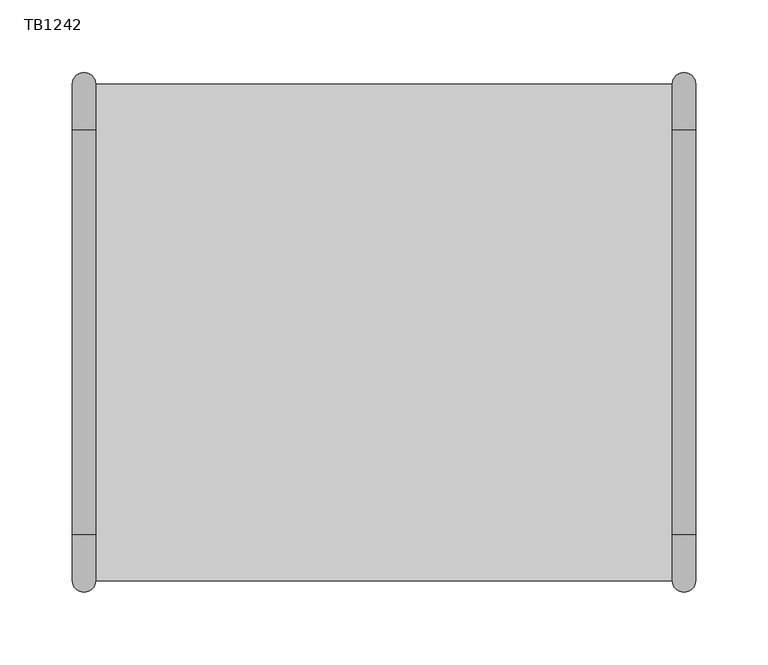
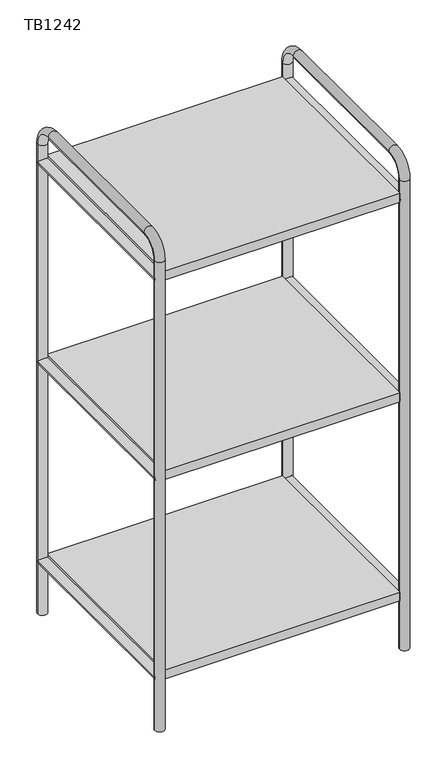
"""IFC4 building model written with IfcOpenShell, lengths in millimetres: furniture geometry, Tubbe Bookcase_2x1 : TB1242."""

from ifc_helpers import new_model, si_unit, point, frame, frame_2d, origin, place, context, project, spatial, polyline, circle_curve, ellipse_curve, trimmed, segment, composite_curve, outline, extrude, source, transform, mapped, element, save
from ifc_brep_helpers import plane_surface, cylinder_surface, revolved_surface, advanced_brep


def tb1242_8765e396(model_context):
    return source(origin(), model_context, "Body", "SolidModel", [
        extrude(outline(polyline([(199.0, 171.5), (199.0, -171.5), (-199.0, -171.5), (-199.0, 171.5), (199.0, 171.5)])), frame((0.0, 0.0, 798.0), z_axis=(0.0, 0.0, 1.0), x_axis=(1.0, 0.0, 0.0)), (0.0, 0.0, 1.0), 16.0),
        extrude(outline(polyline([(199.0, 171.5), (199.0, -171.5), (-199.0, -171.5), (-199.0, 171.5), (199.0, 171.5)])), frame((0.0, 0.0, 442.0), z_axis=(0.0, 0.0, 1.0), x_axis=(1.0, 0.0, 0.0)), (0.0, 0.0, 1.0), 16.0),
        extrude(outline(polyline([(199.0, 171.5), (199.0, -171.5), (-199.0, -171.5), (-199.0, 171.5), (199.0, 171.5)])), frame((0.0, 0.0, 86.0), z_axis=(0.0, 0.0, 1.0), x_axis=(1.0, 0.0, 0.0)), (0.0, 0.0, 1.0), 16.0),
        extrude(outline(composite_curve([segment(trimmed(circle_curve(frame_2d((806.0, 207.0)), 8.0), [point((806.0, 199.0))], [point((806.0, 215.0))], False, "CARTESIAN"), True, "CONTINUOUS"), segment(trimmed(circle_curve(frame_2d((806.0, 207.0)), 8.0), [point((806.0, 215.0))], [point((806.0, 199.0))], False, "CARTESIAN"), True, "CONTINUOUS")], self_intersect=False)), frame((0.0, -171.5, 0.0), z_axis=(0.0, 1.0, 0.0), x_axis=(0.0, 0.0, 1.0)), (0.0, 0.0, 1.0), 343.0),
        extrude(outline(composite_curve([segment(trimmed(circle_curve(frame_2d((450.0, 207.0)), 8.0), [point((450.0, 199.0))], [point((450.0, 215.0))], False, "CARTESIAN"), True, "CONTINUOUS"), segment(trimmed(circle_curve(frame_2d((450.0, 207.0)), 8.0), [point((450.0, 215.0))], [point((450.0, 199.0))], False, "CARTESIAN"), True, "CONTINUOUS")], self_intersect=False)), frame((0.0, -171.5, 0.0), z_axis=(0.0, 1.0, 0.0), x_axis=(0.0, 0.0, 1.0)), (0.0, 0.0, 1.0), 343.0),
        extrude(outline(composite_curve([segment(trimmed(circle_curve(frame_2d((94.0, 207.0)), 8.0), [point((94.0, 199.0))], [point((94.0, 215.0))], False, "CARTESIAN"), True, "CONTINUOUS"), segment(trimmed(circle_curve(frame_2d((94.0, 207.0)), 8.0), [point((94.0, 215.0))], [point((94.0, 199.0))], False, "CARTESIAN"), True, "CONTINUOUS")], self_intersect=False)), frame((0.0, -171.5, 0.0), z_axis=(0.0, 1.0, 0.0), x_axis=(0.0, 0.0, 1.0)), (0.0, 0.0, 1.0), 343.0),
        advanced_brep(
        [(199.0, 171.5, 0.0), (215.0, 171.5, 0.0), (199.0, 171.5, 838.0), (215.0, 171.5, 838.0), (215.0, 139.5, 870.0), (199.0, 139.5, 870.0), (199.0, -139.5, 870.0), (215.0, -139.5, 870.0), (215.0, -171.5, 838.0), (199.0, -171.5, 838.0), (199.0, -171.5, 0.0), (215.0, -171.5, 0.0)],
        [
            (0, 1, circle_curve(frame((207.0, 171.5, 0.0), z_axis=(0.0, 0.0, -1.0), x_axis=(1.0, 0.0, 0.0)), 8.0)),
            (1, 0, circle_curve(frame((207.0, 171.5, 0.0), z_axis=(0.0, 0.0, -1.0), x_axis=(1.0, 0.0, 0.0)), 8.0)),
            (0, 2),
            (2, 3, circle_curve(frame((207.0, 171.5, 838.0), z_axis=(0.0, 0.0, -1.0), x_axis=(1.0, 0.0, 0.0)), 8.0)),
            (3, 1),
            (3, 2, circle_curve(frame((207.0, 171.5, 838.0), z_axis=(0.0, 0.0, -1.0), x_axis=(1.0, 0.0, 0.0)), 8.0)),
            (4, 5, circle_curve(frame((207.0, 139.5, 870.0), z_axis=(0.0, -1.0, 0.0), x_axis=(1.0, 0.0, 0.0)), 8.0)),
            (5, 6),
            (6, 7, circle_curve(frame((207.0, -139.5, 870.0), z_axis=(0.0, 1.0, 0.0), x_axis=(1.0, 0.0, 0.0)), 8.0)),
            (7, 4),
            (5, 4, circle_curve(frame((207.0, 139.5, 870.0), z_axis=(0.0, -1.0, 0.0), x_axis=(1.0, 0.0, 0.0)), 8.0)),
            (7, 6, circle_curve(frame((207.0, -139.5, 870.0), z_axis=(0.0, 1.0, 0.0), x_axis=(1.0, 0.0, 0.0)), 8.0)),
            (8, 7, circle_curve(frame((215.0, -139.5, 838.0), z_axis=(-1.0, 0.0, 0.0), x_axis=(0.0, 0.0, 1.0)), 32.0)),
            (6, 9, circle_curve(frame((199.0, -139.5, 838.0), z_axis=(1.0, 0.0, 0.0), x_axis=(0.0, 0.0, 1.0)), 32.0)),
            (9, 8, circle_curve(frame((207.0, -171.5, 838.0), z_axis=(0.0, 0.0, 1.0), x_axis=(1.0, 0.0, 0.0)), 8.0)),
            (8, 9, circle_curve(frame((207.0, -171.5, 838.0), z_axis=(0.0, 0.0, 1.0), x_axis=(1.0, 0.0, 0.0)), 8.0)),
            (10, 11, circle_curve(frame((207.0, -171.5, 0.0), z_axis=(0.0, 0.0, -1.0), x_axis=(1.0, 0.0, 0.0)), 8.0)),
            (11, 10, circle_curve(frame((207.0, -171.5, 0.0), z_axis=(0.0, 0.0, -1.0), x_axis=(1.0, 0.0, 0.0)), 8.0)),
            (9, 10),
            (11, 8),
            (4, 3, circle_curve(frame((215.0, 139.5, 838.0), z_axis=(-1.0, 0.0, 0.0), x_axis=(0.0, 1.0, 0.0)), 32.0)),
            (2, 5, circle_curve(frame((199.0, 139.5, 838.0), z_axis=(1.0, 0.0, 0.0), x_axis=(0.0, 1.0, 0.0)), 32.0)),
        ],
        [
            plane_surface(frame((207.0, 171.5, 0.0), z_axis=(0.0, 0.0, -1.0), x_axis=(1.0, 0.0, 0.0))),
            cylinder_surface(frame((207.0, 171.5, 0.0), z_axis=(0.0, 0.0, -1.0), x_axis=(1.0, 0.0, 0.0)), 8.0),
            cylinder_surface(frame((207.0, 139.5, 870.0), z_axis=(0.0, 1.0, 0.0), x_axis=(1.0, 0.0, 0.0)), 8.0),
            revolved_surface(trimmed(ellipse_curve(frame((207.0, -139.5, 870.0), z_axis=(0.0, 1.0, 0.0), x_axis=(1.0, 0.0, 0.0)), 8.0, 8.0), [point((199.0, -139.5, 870.0))], [point((215.0, -139.5, 870.0))], True, "CARTESIAN"), (207.0, -139.5, 838.0), (1.0, 0.0, 0.0)),
            revolved_surface(trimmed(ellipse_curve(frame((207.0, -139.5, 870.0), z_axis=(0.0, 1.0, 0.0), x_axis=(1.0, 0.0, 0.0)), 8.0, 8.0), [point((215.0, -139.5, 870.0))], [point((199.0, -139.5, 870.0))], True, "CARTESIAN"), (207.0, -139.5, 838.0), (1.0, 0.0, 0.0)),
            plane_surface(frame((207.0, -171.5, 0.0), z_axis=(0.0, 0.0, -1.0), x_axis=(1.0, 0.0, 0.0))),
            cylinder_surface(frame((207.0, -171.5, 838.0), z_axis=(0.0, 0.0, 1.0), x_axis=(1.0, 0.0, 0.0)), 8.0),
            revolved_surface(trimmed(ellipse_curve(frame((207.0, 171.5, 838.0), z_axis=(0.0, 0.0, -1.0), x_axis=(1.0, 0.0, 0.0)), 8.0, 8.0), [point((199.0, 171.5, 838.0))], [point((215.0, 171.5, 838.0))], True, "CARTESIAN"), (207.0, 139.5, 838.0), (1.0, 0.0, 0.0)),
            revolved_surface(trimmed(ellipse_curve(frame((207.0, 171.5, 838.0), z_axis=(0.0, 0.0, -1.0), x_axis=(1.0, 0.0, 0.0)), 8.0, 8.0), [point((215.0, 171.5, 838.0))], [point((199.0, 171.5, 838.0))], True, "CARTESIAN"), (207.0, 139.5, 838.0), (1.0, 0.0, 0.0)),
        ],
        [
            (0, [[1, 2]]),
            (1, [[-1, 3, 4, 5]]),
            (1, [[-2, -5, 6, -3]]),
            (2, [[7, 8, 9, 10]]),
            (2, [[11, -10, 12, -8]]),
            (3, [[13, -9, 14, 15]]),
            (4, [[-14, -12, -13, 16]]),
            (5, [[17, 18]]),
            (6, [[-15, 19, -18, 20]]),
            (6, [[-16, -20, -17, -19]]),
            (7, [[21, -4, 22, -7]]),
            (8, [[-22, -6, -21, -11]]),
        ],
    ),
        extrude(outline(composite_curve([segment(trimmed(circle_curve(frame_2d((806.0, -207.0)), 8.0), [point((806.0, -215.0))], [point((806.0, -199.0))], False, "CARTESIAN"), True, "CONTINUOUS"), segment(trimmed(circle_curve(frame_2d((806.0, -207.0)), 8.0), [point((806.0, -199.0))], [point((806.0, -215.0))], False, "CARTESIAN"), True, "CONTINUOUS")], self_intersect=False)), frame((0.0, -171.5, 0.0), z_axis=(0.0, 1.0, 0.0), x_axis=(0.0, 0.0, 1.0)), (0.0, 0.0, 1.0), 343.0),
        extrude(outline(composite_curve([segment(trimmed(circle_curve(frame_2d((450.0, -207.0)), 8.0), [point((450.0, -215.0))], [point((450.0, -199.0))], False, "CARTESIAN"), True, "CONTINUOUS"), segment(trimmed(circle_curve(frame_2d((450.0, -207.0)), 8.0), [point((450.0, -199.0))], [point((450.0, -215.0))], False, "CARTESIAN"), True, "CONTINUOUS")], self_intersect=False)), frame((0.0, -171.5, 0.0), z_axis=(0.0, 1.0, 0.0), x_axis=(0.0, 0.0, 1.0)), (0.0, 0.0, 1.0), 343.0),
        extrude(outline(composite_curve([segment(trimmed(circle_curve(frame_2d((94.0, -207.0)), 8.0), [point((94.0, -215.0))], [point((94.0, -199.0))], False, "CARTESIAN"), True, "CONTINUOUS"), segment(trimmed(circle_curve(frame_2d((94.0, -207.0)), 8.0), [point((94.0, -199.0))], [point((94.0, -215.0))], False, "CARTESIAN"), True, "CONTINUOUS")], self_intersect=False)), frame((0.0, -171.5, 0.0), z_axis=(0.0, 1.0, 0.0), x_axis=(0.0, 0.0, 1.0)), (0.0, 0.0, 1.0), 343.0),
        advanced_brep(
        [(-215.0, 171.5, 0.0), (-199.0, 171.5, 0.0), (-215.0, 171.5, 838.0), (-199.0, 171.5, 838.0), (-199.0, 139.5, 870.0), (-215.0, 139.5, 870.0), (-215.0, -139.5, 870.0), (-199.0, -139.5, 870.0), (-199.0, -171.5, 838.0), (-215.0, -171.5, 838.0), (-215.0, -171.5, 0.0), (-199.0, -171.5, 0.0)],
        [
            (0, 1, circle_curve(frame((-207.0, 171.5, 0.0), z_axis=(0.0, 0.0, -1.0), x_axis=(1.0, 0.0, 0.0)), 8.0)),
            (1, 0, circle_curve(frame((-207.0, 171.5, 0.0), z_axis=(0.0, 0.0, -1.0), x_axis=(1.0, 0.0, 0.0)), 8.0)),
            (0, 2),
            (2, 3, circle_curve(frame((-207.0, 171.5, 838.0), z_axis=(0.0, 0.0, -1.0), x_axis=(1.0, 0.0, 0.0)), 8.0)),
            (3, 1),
            (3, 2, circle_curve(frame((-207.0, 171.5, 838.0), z_axis=(0.0, 0.0, -1.0), x_axis=(1.0, 0.0, 0.0)), 8.0)),
            (4, 5, circle_curve(frame((-207.0, 139.5, 870.0), z_axis=(0.0, -1.0, 0.0), x_axis=(1.0, 0.0, 0.0)), 8.0)),
            (5, 6),
            (6, 7, circle_curve(frame((-207.0, -139.5, 870.0), z_axis=(0.0, 1.0, 0.0), x_axis=(1.0, 0.0, 0.0)), 8.0)),
            (7, 4),
            (5, 4, circle_curve(frame((-207.0, 139.5, 870.0), z_axis=(0.0, -1.0, 0.0), x_axis=(1.0, 0.0, 0.0)), 8.0)),
            (7, 6, circle_curve(frame((-207.0, -139.5, 870.0), z_axis=(0.0, 1.0, 0.0), x_axis=(1.0, 0.0, 0.0)), 8.0)),
            (8, 7, circle_curve(frame((-199.0, -139.5, 838.0), z_axis=(-1.0, 0.0, 0.0), x_axis=(0.0, 0.0, 1.0)), 32.0)),
            (6, 9, circle_curve(frame((-215.0, -139.5, 838.0), z_axis=(1.0, 0.0, 0.0), x_axis=(0.0, 0.0, 1.0)), 32.0)),
            (9, 8, circle_curve(frame((-207.0, -171.5, 838.0), z_axis=(0.0, 0.0, 1.0), x_axis=(1.0, 0.0, 0.0)), 8.0)),
            (8, 9, circle_curve(frame((-207.0, -171.5, 838.0), z_axis=(0.0, 0.0, 1.0), x_axis=(1.0, 0.0, 0.0)), 8.0)),
            (10, 11, circle_curve(frame((-207.0, -171.5, 0.0), z_axis=(0.0, 0.0, -1.0), x_axis=(1.0, 0.0, 0.0)), 8.0)),
            (11, 10, circle_curve(frame((-207.0, -171.5, 0.0), z_axis=(0.0, 0.0, -1.0), x_axis=(1.0, 0.0, 0.0)), 8.0)),
            (9, 10),
            (11, 8),
            (4, 3, circle_curve(frame((-199.0, 139.5, 838.0), z_axis=(-1.0, 0.0, 0.0), x_axis=(0.0, 1.0, 0.0)), 32.0)),
            (2, 5, circle_curve(frame((-215.0, 139.5, 838.0), z_axis=(1.0, 0.0, 0.0), x_axis=(0.0, 1.0, 0.0)), 32.0)),
        ],
        [
            plane_surface(frame((-207.0, 171.5, 0.0), z_axis=(0.0, 0.0, -1.0), x_axis=(1.0, 0.0, 0.0))),
            cylinder_surface(frame((-207.0, 171.5, 0.0), z_axis=(0.0, 0.0, -1.0), x_axis=(1.0, 0.0, 0.0)), 8.0),
            cylinder_surface(frame((-207.0, 139.5, 870.0), z_axis=(0.0, 1.0, 0.0), x_axis=(1.0, 0.0, 0.0)), 8.0),
            revolved_surface(trimmed(ellipse_curve(frame((-207.0, -139.5, 870.0), z_axis=(0.0, 1.0, 0.0), x_axis=(1.0, 0.0, 0.0)), 8.0, 8.0), [point((-215.0, -139.5, 870.0))], [point((-199.0, -139.5, 870.0))], True, "CARTESIAN"), (-207.0, -139.5, 838.0), (1.0, 0.0, 0.0)),
            revolved_surface(trimmed(ellipse_curve(frame((-207.0, -139.5, 870.0), z_axis=(0.0, 1.0, 0.0), x_axis=(1.0, 0.0, 0.0)), 8.0, 8.0), [point((-199.0, -139.5, 870.0))], [point((-215.0, -139.5, 870.0))], True, "CARTESIAN"), (-207.0, -139.5, 838.0), (1.0, 0.0, 0.0)),
            plane_surface(frame((-207.0, -171.5, 0.0), z_axis=(0.0, 0.0, -1.0), x_axis=(1.0, 0.0, 0.0))),
            cylinder_surface(frame((-207.0, -171.5, 838.0), z_axis=(0.0, 0.0, 1.0), x_axis=(1.0, 0.0, 0.0)), 8.0),
            revolved_surface(trimmed(ellipse_curve(frame((-207.0, 171.5, 838.0), z_axis=(0.0, 0.0, -1.0), x_axis=(1.0, 0.0, 0.0)), 8.0, 8.0), [point((-215.0, 171.5, 838.0))], [point((-199.0, 171.5, 838.0))], True, "CARTESIAN"), (-207.0, 139.5, 838.0), (1.0, 0.0, 0.0)),
            revolved_surface(trimmed(ellipse_curve(frame((-207.0, 171.5, 838.0), z_axis=(0.0, 0.0, -1.0), x_axis=(1.0, 0.0, 0.0)), 8.0, 8.0), [point((-199.0, 171.5, 838.0))], [point((-215.0, 171.5, 838.0))], True, "CARTESIAN"), (-207.0, 139.5, 838.0), (1.0, 0.0, 0.0)),
        ],
        [
            (0, [[1, 2]]),
            (1, [[-1, 3, 4, 5]]),
            (1, [[-2, -5, 6, -3]]),
            (2, [[7, 8, 9, 10]]),
            (2, [[11, -10, 12, -8]]),
            (3, [[13, -9, 14, 15]]),
            (4, [[-14, -12, -13, 16]]),
            (5, [[17, 18]]),
            (6, [[-15, 19, -18, 20]]),
            (6, [[-16, -20, -17, -19]]),
            (7, [[21, -4, 22, -7]]),
            (8, [[-22, -6, -21, -11]]),
        ],
    ),
    ])


if __name__ == "__main__":
    model = new_model("IFC4")
    model_context = context("Model", 3, world=origin())
    ifc_project = project(units=[si_unit("LENGTHUNIT", "METRE", prefix="MILLI")], contexts=[model_context])
    site = spatial("IfcSite", under=ifc_project)
    building = spatial("IfcBuilding", under=site)
    placement = place(None, origin())
    tb1242_shape = tb1242_8765e396(model_context)
    element("IfcFurniture", 1, ObjectType="Tubbe Bookcase_2x1 : TB1242", at=placement, inside=building, context=model_context, shape_type="MappedRepresentation", body=[
        mapped(tb1242_shape, transform((0.0, 0.0, 0.0), x_axis=(1.0, 0.0, 0.0), y_axis=(0.0, 1.0, 0.0), z_axis=(0.0, 0.0, 1.0))),
    ])
    save(model, "model.ifc")
